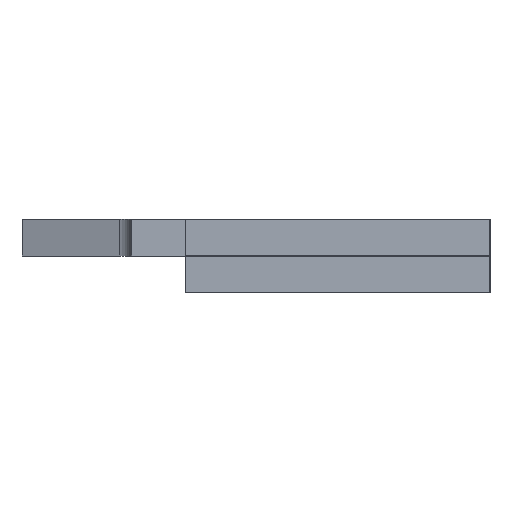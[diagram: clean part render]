
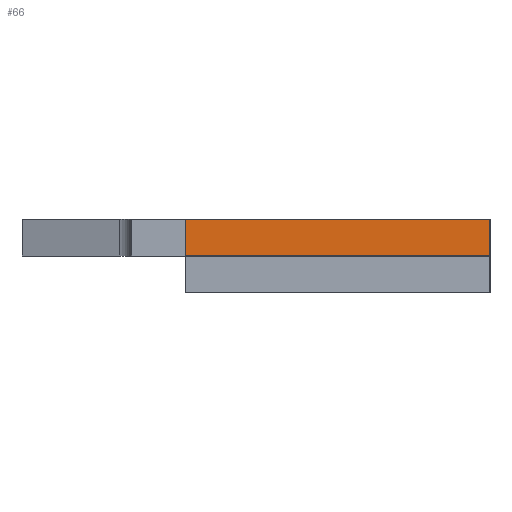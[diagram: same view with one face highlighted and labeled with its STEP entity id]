
A CAD part, left-side view. The second image highlights one B-rep face of the part: STEP entity #66.
In plain terms, the highlighted planar face has unit normal (-1, 0, 0).
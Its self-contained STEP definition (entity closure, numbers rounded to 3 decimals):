
#66 = ADVANCED_FACE ( 'NONE', ( #5192 ), #2163, .T. ) ;
#1482 = EDGE_CURVE ( 'NONE', #3316, #4717, #6612, .T. ) ;
#2163 = PLANE ( 'NONE',  #2377 ) ;
#2204 = DIRECTION ( 'NONE',  ( 0., 0., 1. ) ) ;
#2272 = ORIENTED_EDGE ( 'NONE', *, *, #6823, .F. ) ;
#2377 = AXIS2_PLACEMENT_3D ( 'NONE', #2815, #5276, #2204 ) ;
#2402 = EDGE_CURVE ( 'NONE', #3144, #3316, #2918, .T. ) ;
#2815 = CARTESIAN_POINT ( 'NONE',  ( -4.513, -34.42, -1.5 ) ) ;
#2827 = CARTESIAN_POINT ( 'NONE',  ( -4.513, -34.42, -1.5 ) ) ;
#2918 = LINE ( 'NONE', #7223, #6870 ) ;
#3136 = ORIENTED_EDGE ( 'NONE', *, *, #2402, .T. ) ;
#3144 = VERTEX_POINT ( 'NONE', #4435 ) ;
#3316 = VERTEX_POINT ( 'NONE', #6766 ) ;
#3727 = VECTOR ( 'NONE', #4259, 1000. ) ;
#3810 = VECTOR ( 'NONE', #6489, 1000. ) ;
#3847 = LINE ( 'NONE', #5134, #7468 ) ;
#4078 = EDGE_LOOP ( 'NONE', ( #4314, #2272, #3136, #4740 ) ) ;
#4129 = DIRECTION ( 'NONE',  ( 0., -1., 0. ) ) ;
#4259 = DIRECTION ( 'NONE',  ( 0., -1., 0. ) ) ;
#4314 = ORIENTED_EDGE ( 'NONE', *, *, #5457, .F. ) ;
#4435 = CARTESIAN_POINT ( 'NONE',  ( -4.513, -9.42, -1.5 ) ) ;
#4717 = VERTEX_POINT ( 'NONE', #7406 ) ;
#4740 = ORIENTED_EDGE ( 'NONE', *, *, #1482, .T. ) ;
#4886 = VERTEX_POINT ( 'NONE', #5759 ) ;
#5134 = CARTESIAN_POINT ( 'NONE',  ( -4.513, -9.42, -1.5 ) ) ;
#5192 = FACE_OUTER_BOUND ( 'NONE', #4078, .T. ) ;
#5276 = DIRECTION ( 'NONE',  ( -1., 0., 0. ) ) ;
#5457 = EDGE_CURVE ( 'NONE', #4886, #4717, #7349, .T. ) ;
#5759 = CARTESIAN_POINT ( 'NONE',  ( -4.513, -9.42, 1.5 ) ) ;
#6145 = CARTESIAN_POINT ( 'NONE',  ( -4.513, -34.42, 1.5 ) ) ;
#6489 = DIRECTION ( 'NONE',  ( 0., 0., 1. ) ) ;
#6612 = LINE ( 'NONE', #2827, #3810 ) ;
#6766 = CARTESIAN_POINT ( 'NONE',  ( -4.513, -34.42, -1.5 ) ) ;
#6823 = EDGE_CURVE ( 'NONE', #3144, #4886, #3847, .T. ) ;
#6870 = VECTOR ( 'NONE', #4129, 1000. ) ;
#7223 = CARTESIAN_POINT ( 'NONE',  ( -4.513, -34.42, -1.5 ) ) ;
#7349 = LINE ( 'NONE', #6145, #3727 ) ;
#7406 = CARTESIAN_POINT ( 'NONE',  ( -4.513, -34.42, 1.5 ) ) ;
#7468 = VECTOR ( 'NONE', #7540, 1000. ) ;
#7540 = DIRECTION ( 'NONE',  ( 0., 0., 1. ) ) ;
